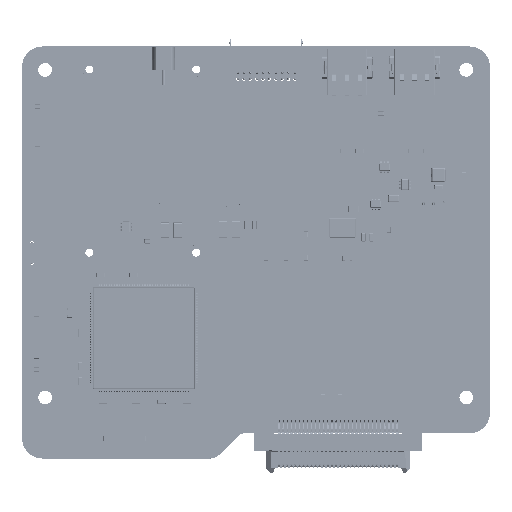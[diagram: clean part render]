
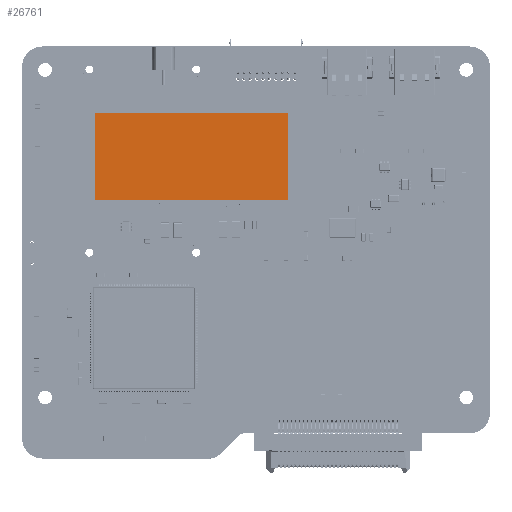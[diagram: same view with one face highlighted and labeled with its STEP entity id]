
A CAD part, top view. The second image highlights one B-rep face of the part: STEP entity #26761.
In plain terms, the highlighted planar face has unit normal (0, 0, 1).
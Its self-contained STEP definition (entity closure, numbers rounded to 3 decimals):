
#26632 = VERTEX_POINT('',#26633);
#26633 = CARTESIAN_POINT('',(1.4,0.,4.));
#26648 = VERTEX_POINT('',#26649);
#26649 = CARTESIAN_POINT('',(1.4,38.,4.));
#26655 = EDGE_CURVE('',#26632,#26648,#26656,.T.);
#26656 = LINE('',#26657,#26658);
#26657 = CARTESIAN_POINT('',(1.4,0.,4.));
#26658 = VECTOR('',#26659,1.);
#26659 = DIRECTION('',(-0.,1.,0.));
#26672 = VERTEX_POINT('',#26673);
#26673 = CARTESIAN_POINT('',(18.6,0.,4.));
#26688 = VERTEX_POINT('',#26689);
#26689 = CARTESIAN_POINT('',(18.6,38.,4.));
#26695 = EDGE_CURVE('',#26672,#26688,#26696,.T.);
#26696 = LINE('',#26697,#26698);
#26697 = CARTESIAN_POINT('',(18.6,0.,4.));
#26698 = VECTOR('',#26699,1.);
#26699 = DIRECTION('',(-0.,1.,0.));
#26716 = EDGE_CURVE('',#26632,#26672,#26717,.T.);
#26717 = LINE('',#26718,#26719);
#26718 = CARTESIAN_POINT('',(1.4,0.,4.));
#26719 = VECTOR('',#26720,1.);
#26720 = DIRECTION('',(1.,0.,-0.));
#26738 = EDGE_CURVE('',#26648,#26688,#26739,.T.);
#26739 = LINE('',#26740,#26741);
#26740 = CARTESIAN_POINT('',(1.4,38.,4.));
#26741 = VECTOR('',#26742,1.);
#26742 = DIRECTION('',(1.,0.,-0.));
#26761 = ADVANCED_FACE('',(#26762),#26768,.T.);
#26762 = FACE_BOUND('',#26763,.T.);
#26763 = EDGE_LOOP('',(#26764,#26765,#26766,#26767));
#26764 = ORIENTED_EDGE('',*,*,#26655,.F.);
#26765 = ORIENTED_EDGE('',*,*,#26716,.T.);
#26766 = ORIENTED_EDGE('',*,*,#26695,.T.);
#26767 = ORIENTED_EDGE('',*,*,#26738,.F.);
#26768 = PLANE('',#26769);
#26769 = AXIS2_PLACEMENT_3D('',#26770,#26771,#26772);
#26770 = CARTESIAN_POINT('',(1.4,0.,4.));
#26771 = DIRECTION('',(0.,0.,1.));
#26772 = DIRECTION('',(1.,0.,-0.));
